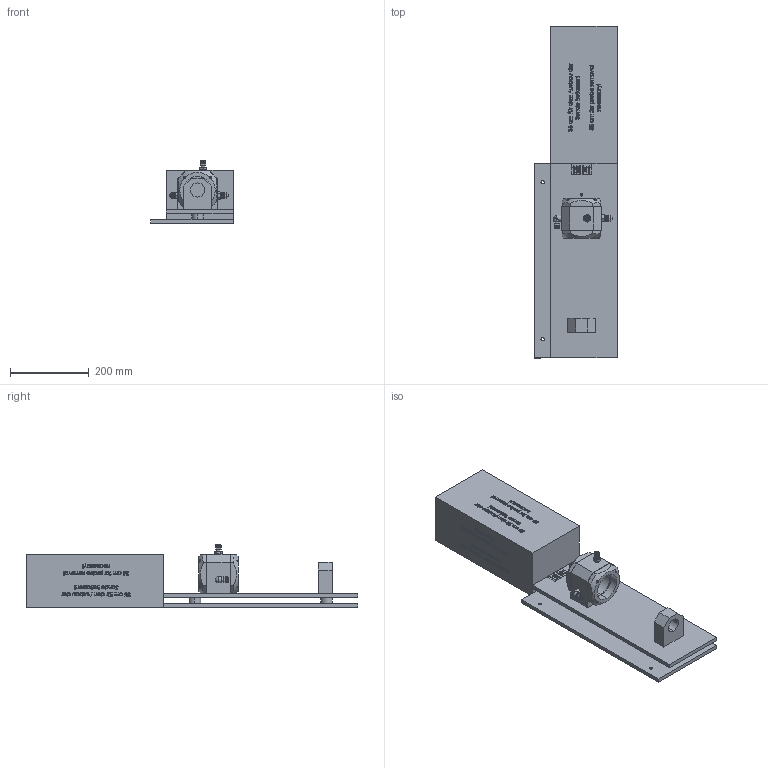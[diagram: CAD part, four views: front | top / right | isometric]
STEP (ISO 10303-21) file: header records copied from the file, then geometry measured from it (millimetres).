
FILE_DESCRIPTION (( 'STEP AP203' ), '1' );
FILE_NAME ('LZX869_TD_00000__d1__001.STEP', '2023-04-28T06:52:32', ( '' ), ( '' ), 'SwSTEP 2.0', 'SolidWorks 2022', '' );
FILE_SCHEMA (( 'CONFIG_CONTROL_DESIGN' ));
Length unit declared in the file: millimetre
Products named in the file (19): HPP529_Anschlagplatte; NNG003_Zylinderschraube mit Innensechskant; DIN EN ISO 7046-1 - M6 x 35 - Z - 35N_DIN EN ISO 7046-1 - M6 x 35 - Z - 35N; HDH676_Hinweisschild; LZX869_TD_00000__d1__001; BVQ848_Durchflusseinheit; HRB163_Distanzbuchse; EXA058_Winkel-Einschraubverschraubung; HPM025_Montageplatte; HRR169_Druckring 2; EXA070_Einschraubverschraubung, weiß; HPM024_Trägerplatte; HVQ634_Messkammer; EAK014_Verschlusshütchen; EZD169_O-Ring 70,00 x 5,00 - EPDM 70; LZX869-001_Freiraum Ein-Ausbau; DIN EN ISO 7046-1 - M5 x 20 - Z - 20N_DIN EN ISO 7046-1 - M5 x 20 - Z - 20N; AXA005_Einschraubverschraubung ; HRR168_Druckring 1
Assembly tree (29 placements, depth 3):
  LZX869_TD_00000__d1__001
    BVQ848_Durchflusseinheit
      HPM025_Montageplatte
      HPP529_Anschlagplatte
      HVQ634_Messkammer
      HRR168_Druckring 1
      HRR169_Druckring 2
      HRB163_Distanzbuchse  x2
      HPM024_Trägerplatte
      HDH676_Hinweisschild
      EZD169_O-Ring 70,00 x 5,00 - EPDM 70  x2
      EXA070_Einschraubverschraubung, weiß
      EAK014_Verschlusshütchen
      AXA005_Einschraubverschraubung 
      EXA058_Winkel-Einschraubverschraubung
      DIN EN ISO 7046-1 - M5 x 20 - Z - 20N_DIN EN ISO 7046-1 - M5 x 20 - Z - 20N  x6
      DIN EN ISO 7046-1 - M6 x 35 - Z - 35N_DIN EN ISO 7046-1 - M6 x 35 - Z - 35N  x2
      NNG003_Zylinderschraube mit Innensechskant  x4
    LZX869-001_Freiraum Ein-Ausbau
Bounding box: 210 x 845 x 160 mm (x, y, z)
Volume: 10604953.3 mm3; surface area: 828720.6 mm2
Topology: 28 solids, 28 shells, 3732 faces, 9730 edges, 6335 vertices
Faces by surface type: plane 1599, bspline 1554, cylinder 283, cone 198, sphere 50, torus 48
Entity records: 177590 total; most frequent: CARTESIAN_POINT 101270, ORIENTED_EDGE 17940, DIRECTION 10179, EDGE_CURVE 8970, VERTEX_POINT 5898, LINE 5045, VECTOR 5045, EDGE_LOOP 3800
